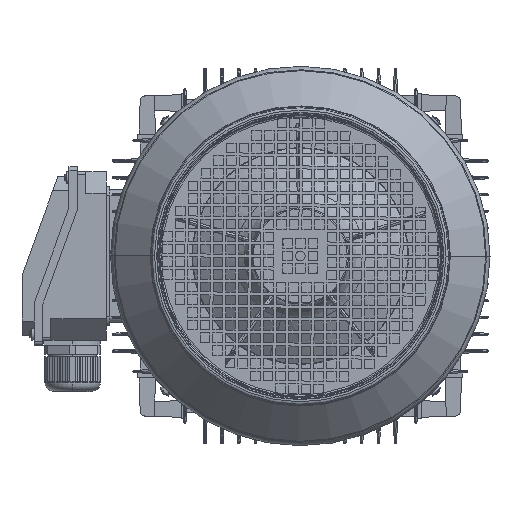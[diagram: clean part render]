
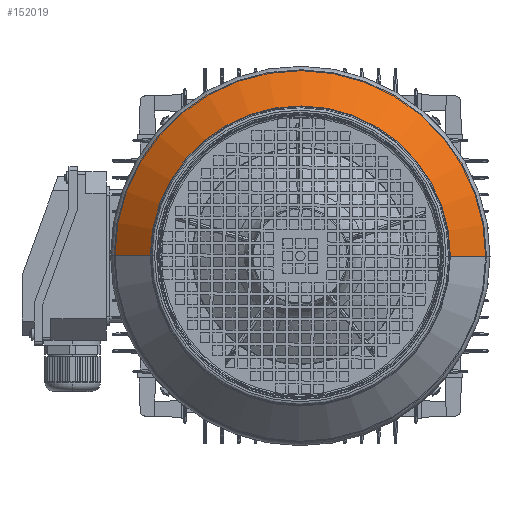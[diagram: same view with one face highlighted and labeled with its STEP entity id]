
A CAD part, left-side view. The second image highlights one B-rep face of the part: STEP entity #152019.
In plain terms, the highlighted conical face has half-angle 45 degrees and reference radius 124.586 mm.
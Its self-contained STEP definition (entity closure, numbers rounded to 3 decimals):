
#387 = FACE_OUTER_BOUND ( 'NONE', #152626, .T. ) ;
#15003 = ORIENTED_EDGE ( 'NONE', *, *, #36439, .F. ) ;
#17673 = AXIS2_PLACEMENT_3D ( 'NONE', #117233, #204171, #221083 ) ;
#25521 = AXIS2_PLACEMENT_3D ( 'NONE', #33072, #84958, #140178 ) ;
#32407 = DIRECTION ( 'NONE',  ( 0.707, 0.707, 0.004 ) ) ;
#33072 = CARTESIAN_POINT ( 'NONE',  ( -286.782, -1.5, 0. ) ) ;
#33935 = CARTESIAN_POINT ( 'NONE',  ( -286.782, 123.084, 0.655 ) ) ;
#36439 = EDGE_CURVE ( 'NONE', #87853, #77887, #95900, .T. ) ;
#37561 = VECTOR ( 'NONE', #98687, 1000. ) ;
#40094 = EDGE_CURVE ( 'NONE', #175874, #77887, #116710, .T. ) ;
#69326 = CARTESIAN_POINT ( 'NONE',  ( -286.782, -126.084, -0.655 ) ) ;
#69810 = DIRECTION ( 'NONE',  ( 0., -1., -0.005 ) ) ;
#77887 = VERTEX_POINT ( 'NONE', #91268 ) ;
#81033 = ORIENTED_EDGE ( 'NONE', *, *, #206671, .T. ) ;
#84958 = DIRECTION ( 'NONE',  ( 1., 0., 0. ) ) ;
#87853 = VERTEX_POINT ( 'NONE', #117252 ) ;
#91268 = CARTESIAN_POINT ( 'NONE',  ( -256.797, -156.069, -0.812 ) ) ;
#95900 = CIRCLE ( 'NONE', #186152, 154.571 ) ;
#98687 = DIRECTION ( 'NONE',  ( 0.707, -0.707, -0.004 ) ) ;
#115466 = CONICAL_SURFACE ( 'NONE', #25521, 124.586, 0.785 ) ;
#116710 = LINE ( 'NONE', #69326, #37561 ) ;
#117233 = CARTESIAN_POINT ( 'NONE',  ( -286.782, -1.5, 0. ) ) ;
#117252 = CARTESIAN_POINT ( 'NONE',  ( -256.797, 153.069, 0.812 ) ) ;
#118102 = CARTESIAN_POINT ( 'NONE',  ( -286.782, 123.084, 0.655 ) ) ;
#135018 = LINE ( 'NONE', #118102, #217273 ) ;
#136302 = VERTEX_POINT ( 'NONE', #33935 ) ;
#136530 = ORIENTED_EDGE ( 'NONE', *, *, #40094, .T. ) ;
#140178 = DIRECTION ( 'NONE',  ( 0., -1., -0.005 ) ) ;
#152019 = ADVANCED_FACE ( 'NONE', ( #387 ), #115466, .T. ) ;
#152626 = EDGE_LOOP ( 'NONE', ( #194672, #81033, #136530, #15003 ) ) ;
#156665 = CARTESIAN_POINT ( 'NONE',  ( -256.797, -1.5, 0. ) ) ;
#158105 = EDGE_CURVE ( 'NONE', #136302, #87853, #135018, .T. ) ;
#158268 = CIRCLE ( 'NONE', #17673, 124.586 ) ;
#170240 = DIRECTION ( 'NONE',  ( 1., 0., 0. ) ) ;
#175874 = VERTEX_POINT ( 'NONE', #209305 ) ;
#186152 = AXIS2_PLACEMENT_3D ( 'NONE', #156665, #170240, #69810 ) ;
#194672 = ORIENTED_EDGE ( 'NONE', *, *, #158105, .F. ) ;
#204171 = DIRECTION ( 'NONE',  ( 1., 0., 0. ) ) ;
#206671 = EDGE_CURVE ( 'NONE', #136302, #175874, #158268, .T. ) ;
#209305 = CARTESIAN_POINT ( 'NONE',  ( -286.782, -126.084, -0.655 ) ) ;
#217273 = VECTOR ( 'NONE', #32407, 1000. ) ;
#221083 = DIRECTION ( 'NONE',  ( 0., -1., -0.005 ) ) ;
